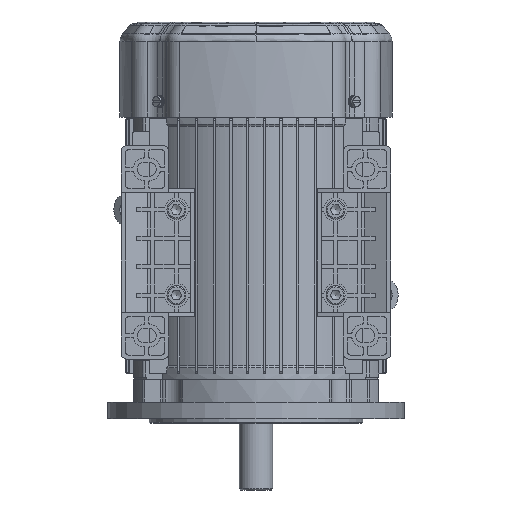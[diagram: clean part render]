
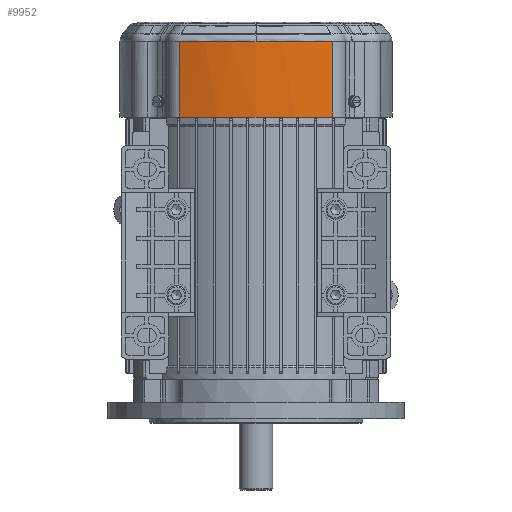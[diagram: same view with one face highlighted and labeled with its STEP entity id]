
A CAD part, left-side view. The second image highlights one B-rep face of the part: STEP entity #9952.
In plain terms, the highlighted cylindrical face has radius 214.5 mm (diameter 429 mm), a partial arc.
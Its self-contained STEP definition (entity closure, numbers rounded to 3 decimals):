
#3638=B_SPLINE_CURVE_WITH_KNOTS('',3,(#159038,#159039,#159040,#159041),
 .UNSPECIFIED.,.F.,.F.,(4,4),(0.,1.),.UNSPECIFIED.);
#3656=B_SPLINE_CURVE_WITH_KNOTS('',3,(#160738,#160739,#160740,#160741,#160742,
#160743,#160744,#160745,#160746,#160747,#160748,#160749,#160750,#160751,
#160752),.UNSPECIFIED.,.F.,.F.,(4,1,1,1,1,1,1,1,1,1,1,1,4),(0.,0.137,
0.274,0.411,0.548,0.685,
0.823,0.96,0.977,0.985,
0.994,0.998,1.),.UNSPECIFIED.);
#4790=CYLINDRICAL_SURFACE('',#92828,214.5);
#9952=ADVANCED_FACE('',(#16632),#4790,.T.);
#16632=FACE_OUTER_BOUND('',#22032,.T.);
#22032=EDGE_LOOP('',(#44444,#44445,#44446,#44447,#44448));
#27103=CIRCLE('',#92800,214.5);
#44444=ORIENTED_EDGE('',*,*,#70285,.T.);
#44445=ORIENTED_EDGE('',*,*,#70470,.F.);
#44446=ORIENTED_EDGE('',*,*,#70471,.F.);
#44447=ORIENTED_EDGE('',*,*,#70434,.T.);
#44448=ORIENTED_EDGE('',*,*,#70472,.T.);
#59716=VERTEX_POINT('',#149236);
#59717=VERTEX_POINT('',#149238);
#59812=VERTEX_POINT('',#159037);
#59813=VERTEX_POINT('',#159042);
#59829=VERTEX_POINT('',#160737);
#70285=EDGE_CURVE('',#59717,#59716,#27103,.T.);
#70434=EDGE_CURVE('',#59813,#59812,#3638,.T.);
#70470=EDGE_CURVE('',#59829,#59716,#78393,.T.);
#70471=EDGE_CURVE('',#59813,#59829,#3656,.T.);
#70472=EDGE_CURVE('',#59812,#59717,#78394,.T.);
#78393=LINE('',#160736,#85420);
#78394=LINE('',#160753,#85421);
#85420=VECTOR('',#111908,1.);
#85421=VECTOR('',#111909,1.);
#92800=AXIS2_PLACEMENT_3D('',#149237,#111836,#111837);
#92828=AXIS2_PLACEMENT_3D('',#160754,#111910,#111911);
#111836=DIRECTION('',(0.,0.,1.));
#111837=DIRECTION('',(1.,0.,0.));
#111908=DIRECTION('',(0.,0.,-1.));
#111909=DIRECTION('',(0.,0.,-1.));
#111910=DIRECTION('',(0.,0.,-1.));
#111911=DIRECTION('',(-1.,0.,0.));
#149236=CARTESIAN_POINT('',(-104.532,-64.628,221.));
#149237=CARTESIAN_POINT('',(100.,0.,221.));
#149238=CARTESIAN_POINT('',(-104.532,64.628,221.));
#159037=CARTESIAN_POINT('',(-104.532,64.628,284.491));
#159038=CARTESIAN_POINT('',(-114.5,0.,284.491));
#159039=CARTESIAN_POINT('',(-114.5,21.883,284.491));
#159040=CARTESIAN_POINT('',(-111.125,43.763,284.491));
#159041=CARTESIAN_POINT('',(-104.532,64.628,284.491));
#159042=CARTESIAN_POINT('',(-114.5,0.,284.491));
#160736=CARTESIAN_POINT('',(-104.532,-64.628,298.));
#160737=CARTESIAN_POINT('',(-104.532,-64.628,284.491));
#160738=CARTESIAN_POINT('',(-114.5,0.,284.491));
#160739=CARTESIAN_POINT('',(-114.5,-2.99,284.491));
#160740=CARTESIAN_POINT('',(-114.375,-8.958,284.491));
#160741=CARTESIAN_POINT('',(-113.816,-17.875,284.491));
#160742=CARTESIAN_POINT('',(-112.887,-26.762,284.491));
#160743=CARTESIAN_POINT('',(-111.585,-35.622,284.491));
#160744=CARTESIAN_POINT('',(-109.907,-44.456,284.491));
#160745=CARTESIAN_POINT('',(-107.847,-53.266,284.491));
#160746=CARTESIAN_POINT('',(-106.111,-59.491,284.491));
#160747=CARTESIAN_POINT('',(-105.051,-62.964,284.491));
#160748=CARTESIAN_POINT('',(-104.825,-63.695,284.491));
#160749=CARTESIAN_POINT('',(-104.682,-64.151,284.491));
#160750=CARTESIAN_POINT('',(-104.585,-64.463,284.491));
#160751=CARTESIAN_POINT('',(-104.544,-64.591,284.491));
#160752=CARTESIAN_POINT('',(-104.532,-64.628,284.491));
#160753=CARTESIAN_POINT('',(-104.532,64.628,298.));
#160754=CARTESIAN_POINT('',(100.,0.,298.));
